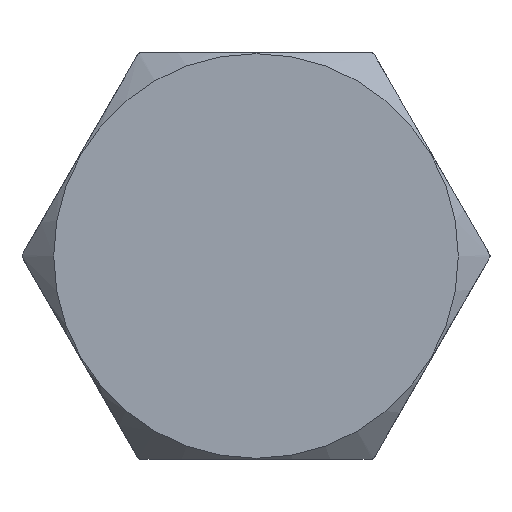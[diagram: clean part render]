
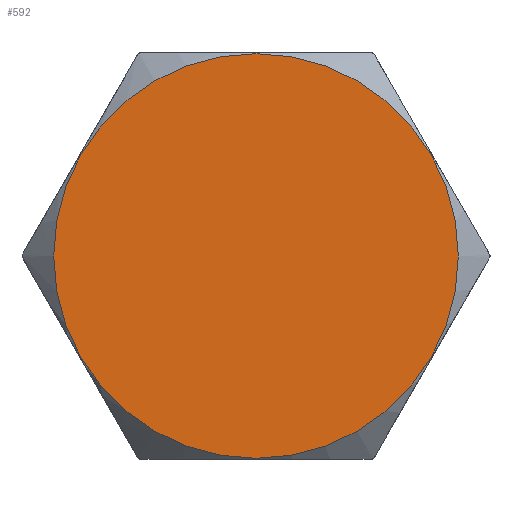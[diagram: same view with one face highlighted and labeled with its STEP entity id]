
A CAD part, front view. The second image highlights one B-rep face of the part: STEP entity #592.
In plain terms, the highlighted planar face has unit normal (0, -1, 0).
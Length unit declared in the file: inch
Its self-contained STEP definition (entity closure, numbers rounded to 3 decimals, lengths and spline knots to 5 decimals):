
#40=PLANE('',#679);
#140=FACE_OUTER_BOUND('',#176,.T.);
#176=EDGE_LOOP('',(#552));
#216=CIRCLE('',#676,0.498);
#285=VERTEX_POINT('',#1154);
#372=EDGE_CURVE('',#285,#285,#216,.T.);
#552=ORIENTED_EDGE('',*,*,#372,.F.);
#592=ADVANCED_FACE('',(#140),#40,.T.);
#676=AXIS2_PLACEMENT_3D('',#1155,#845,#846);
#679=AXIS2_PLACEMENT_3D('',#1159,#852,#853);
#845=DIRECTION('center_axis',(0.,1.,0.));
#846=DIRECTION('ref_axis',(0.,0.,1.));
#852=DIRECTION('center_axis',(0.,-1.,0.));
#853=DIRECTION('ref_axis',(0.,0.,-1.));
#1154=CARTESIAN_POINT('',(0.,0.,-0.498));
#1155=CARTESIAN_POINT('Origin',(0.,0.,0.));
#1159=CARTESIAN_POINT('Origin',(0.,0.,0.));
